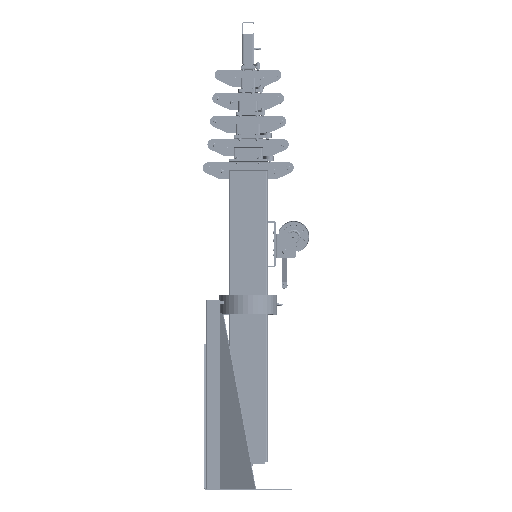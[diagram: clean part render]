
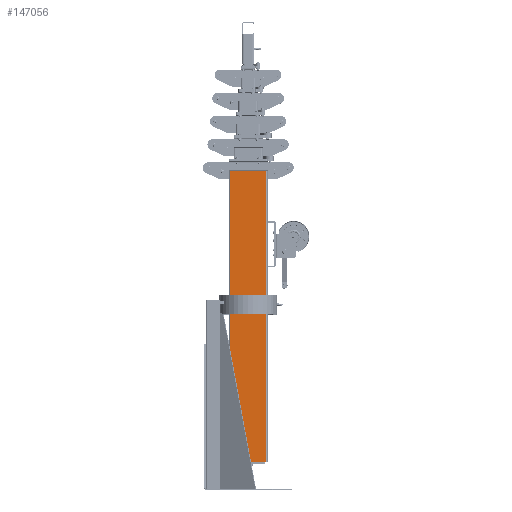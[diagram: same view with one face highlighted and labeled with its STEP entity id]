
A CAD part, top view. The second image highlights one B-rep face of the part: STEP entity #147056.
In plain terms, the highlighted planar face has unit normal (0, 0, 1) as drawn and (-1, 0, 0) by its records, which use the part's own axes.
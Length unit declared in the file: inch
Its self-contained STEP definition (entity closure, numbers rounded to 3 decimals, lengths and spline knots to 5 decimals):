
#5623 = CARTESIAN_POINT ( 'NONE',  ( -4., 61.75, 3.625 ) ) ;
#8054 = DIRECTION ( 'NONE',  ( 0., -1., 0. ) ) ;
#17216 = DIRECTION ( 'NONE',  ( 0., 0., 1. ) ) ;
#19175 = EDGE_CURVE ( 'NONE', #88461, #154580, #68406, .T. ) ;
#20740 = VERTEX_POINT ( 'NONE', #80867 ) ;
#25558 = CARTESIAN_POINT ( 'NONE',  ( -4., 61.75, -3.625 ) ) ;
#27223 = ORIENTED_EDGE ( 'NONE', *, *, #162528, .T. ) ;
#30152 = VECTOR ( 'NONE', #78977, 39.37008 ) ;
#41097 = ORIENTED_EDGE ( 'NONE', *, *, #19175, .T. ) ;
#54027 = DIRECTION ( 'NONE',  ( 1., 0., 0. ) ) ;
#55534 = ORIENTED_EDGE ( 'NONE', *, *, #117236, .F. ) ;
#57891 = VECTOR ( 'NONE', #85484, 39.37008 ) ;
#68406 = LINE ( 'NONE', #70867, #103888 ) ;
#70867 = CARTESIAN_POINT ( 'NONE',  ( -4., 0., 3.625 ) ) ;
#78977 = DIRECTION ( 'NONE',  ( 0., 0., 1. ) ) ;
#80570 = CARTESIAN_POINT ( 'NONE',  ( -4., 0., 3.625 ) ) ;
#80867 = CARTESIAN_POINT ( 'NONE',  ( -4., 61.75, 3.625 ) ) ;
#80874 = EDGE_CURVE ( 'NONE', #138606, #20740, #115634, .T. ) ;
#85484 = DIRECTION ( 'NONE',  ( 0., -1., 0. ) ) ;
#88461 = VERTEX_POINT ( 'NONE', #113035 ) ;
#94176 = CARTESIAN_POINT ( 'NONE',  ( -4., 61.75, 3.625 ) ) ;
#98131 = LINE ( 'NONE', #101340, #133602 ) ;
#100367 = FACE_OUTER_BOUND ( 'NONE', #115709, .T. ) ;
#101340 = CARTESIAN_POINT ( 'NONE',  ( -4., 61.75, -3.625 ) ) ;
#103888 = VECTOR ( 'NONE', #17216, 39.37008 ) ;
#107635 = PLANE ( 'NONE',  #166530 ) ;
#113035 = CARTESIAN_POINT ( 'NONE',  ( -4., 0., -3.625 ) ) ;
#115634 = LINE ( 'NONE', #158944, #30152 ) ;
#115709 = EDGE_LOOP ( 'NONE', ( #41097, #55534, #150184, #27223 ) ) ;
#117236 = EDGE_CURVE ( 'NONE', #20740, #154580, #128796, .T. ) ;
#120982 = DIRECTION ( 'NONE',  ( 0., 0., -1. ) ) ;
#128796 = LINE ( 'NONE', #5623, #57891 ) ;
#133602 = VECTOR ( 'NONE', #8054, 39.37008 ) ;
#138606 = VERTEX_POINT ( 'NONE', #25558 ) ;
#147056 = ADVANCED_FACE ( 'NONE', ( #100367 ), #107635, .F. ) ;
#150184 = ORIENTED_EDGE ( 'NONE', *, *, #80874, .F. ) ;
#154580 = VERTEX_POINT ( 'NONE', #80570 ) ;
#158944 = CARTESIAN_POINT ( 'NONE',  ( -4., 61.75, 3.625 ) ) ;
#162528 = EDGE_CURVE ( 'NONE', #138606, #88461, #98131, .T. ) ;
#166530 = AXIS2_PLACEMENT_3D ( 'NONE', #94176, #54027, #120982 ) ;
